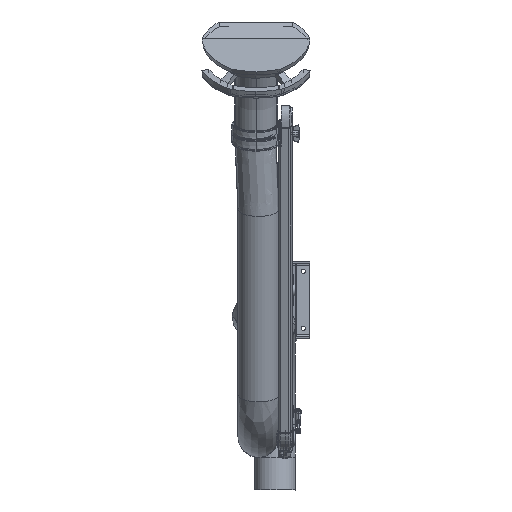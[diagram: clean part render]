
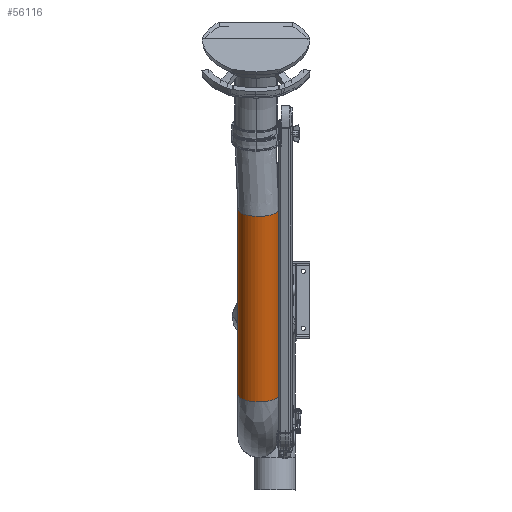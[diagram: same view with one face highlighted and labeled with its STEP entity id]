
A CAD part, front view. The second image highlights one B-rep face of the part: STEP entity #56116.
In plain terms, the highlighted free-form (B-spline) face has degree [3, 3] with [7, 6] control points.
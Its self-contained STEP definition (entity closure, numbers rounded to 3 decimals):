
#54192=CARTESIAN_POINT('',(-112.5,0.,-275.));
#54193=CARTESIAN_POINT('',(-112.5,0.,-341.667));
#54194=CARTESIAN_POINT('',(-112.5,0.,-475.));
#54195=CARTESIAN_POINT('',(-112.5,0.,-675.));
#54196=CARTESIAN_POINT('',(-112.5,0.,-808.333));
#54197=CARTESIAN_POINT('',(-112.5,0.,-875.));
#54202=CARTESIAN_POINT('',(-50.,0.,-275.));
#54203=DIRECTION('',(0.,0.,-1.));
#54204=DIRECTION('',(1.,0.,0.));
#54205=AXIS2_PLACEMENT_3D('',#54202,#54203,#54204);
#54210=CARTESIAN_POINT('',(12.5,0.,-275.));
#54211=CARTESIAN_POINT('',(12.5,0.,-341.667));
#54212=CARTESIAN_POINT('',(12.5,0.,-475.));
#54213=CARTESIAN_POINT('',(12.5,0.,-675.));
#54214=CARTESIAN_POINT('',(12.5,0.,-808.333));
#54215=CARTESIAN_POINT('',(12.5,0.,-875.));
#54220=CARTESIAN_POINT('',(-50.,0.,-875.));
#54221=DIRECTION('',(0.,0.,-1.));
#54222=DIRECTION('',(1.,0.,0.));
#54223=AXIS2_PLACEMENT_3D('',#54220,#54221,#54222);
#55753=CARTESIAN_POINT('',(12.5,0.,-275.));
#55754=CARTESIAN_POINT('',(-112.5,0.,-275.));
#55755=VERTEX_POINT('',#55753);
#55756=VERTEX_POINT('',#55754);
#55761=CARTESIAN_POINT('',(12.5,0.,-875.));
#55762=CARTESIAN_POINT('',(-112.5,0.,-875.));
#55763=VERTEX_POINT('',#55761);
#55764=VERTEX_POINT('',#55762);
#56066=CARTESIAN_POINT('',(12.377,3.924,-263.));
#56067=CARTESIAN_POINT('',(12.377,3.924,-267.));
#56068=CARTESIAN_POINT('',(12.377,3.924,-471.));
#56069=CARTESIAN_POINT('',(12.377,3.924,-679.));
#56070=CARTESIAN_POINT('',(12.377,3.924,-883.));
#56071=CARTESIAN_POINT('',(12.377,3.924,-887.));
#56072=CARTESIAN_POINT('',(14.792,-34.462,-263.));
#56073=CARTESIAN_POINT('',(14.792,-34.462,-267.));
#56074=CARTESIAN_POINT('',(14.792,-34.462,-471.));
#56075=CARTESIAN_POINT('',(14.792,-34.462,-679.));
#56076=CARTESIAN_POINT('',(14.792,-34.462,-883.));
#56077=CARTESIAN_POINT('',(14.792,-34.462,-887.));
#56078=CARTESIAN_POINT('',(-11.538,-62.5,-263.));
#56079=CARTESIAN_POINT('',(-11.538,-62.5,-267.));
#56080=CARTESIAN_POINT('',(-11.538,-62.5,-471.));
#56081=CARTESIAN_POINT('',(-11.538,-62.5,-679.));
#56082=CARTESIAN_POINT('',(-11.538,-62.5,-883.));
#56083=CARTESIAN_POINT('',(-11.538,-62.5,-887.));
#56084=CARTESIAN_POINT('',(-50.,-62.5,-263.));
#56085=CARTESIAN_POINT('',(-50.,-62.5,-267.));
#56086=CARTESIAN_POINT('',(-50.,-62.5,-471.));
#56087=CARTESIAN_POINT('',(-50.,-62.5,-679.));
#56088=CARTESIAN_POINT('',(-50.,-62.5,-883.));
#56089=CARTESIAN_POINT('',(-50.,-62.5,-887.));
#56090=CARTESIAN_POINT('',(-88.462,-62.5,-263.));
#56091=CARTESIAN_POINT('',(-88.462,-62.5,-267.));
#56092=CARTESIAN_POINT('',(-88.462,-62.5,-471.));
#56093=CARTESIAN_POINT('',(-88.462,-62.5,-679.));
#56094=CARTESIAN_POINT('',(-88.462,-62.5,-883.));
#56095=CARTESIAN_POINT('',(-88.462,-62.5,-887.));
#56096=CARTESIAN_POINT('',(-114.792,-34.462,-263.));
#56097=CARTESIAN_POINT('',(-114.792,-34.462,-267.));
#56098=CARTESIAN_POINT('',(-114.792,-34.462,-471.));
#56099=CARTESIAN_POINT('',(-114.792,-34.462,-679.));
#56100=CARTESIAN_POINT('',(-114.792,-34.462,-883.));
#56101=CARTESIAN_POINT('',(-114.792,-34.462,-887.));
#56102=CARTESIAN_POINT('',(-112.377,3.924,-263.));
#56103=CARTESIAN_POINT('',(-112.377,3.924,-267.));
#56104=CARTESIAN_POINT('',(-112.377,3.924,-471.));
#56105=CARTESIAN_POINT('',(-112.377,3.924,-679.));
#56106=CARTESIAN_POINT('',(-112.377,3.924,-883.));
#56107=CARTESIAN_POINT('',(-112.377,3.924,-887.));
#56108=(BOUNDED_SURFACE()B_SPLINE_SURFACE(3,3,((#56066,#56067,#56068,#56069,
#56070,#56071),(#56072,#56073,#56074,#56075,#56076,#56077),(#56078,#56079,
#56080,#56081,#56082,#56083),(#56084,#56085,#56086,#56087,#56088,#56089),
(#56090,#56091,#56092,#56093,#56094,#56095),(#56096,#56097,#56098,#56099,#56100,
#56101),(#56102,#56103,#56104,#56105,#56106,#56107)),.UNSPECIFIED.,.F.,.F.,.F.)B_SPLINE_SURFACE_WITH_KNOTS((4,3,4),(4,1,1,4),(0.,1.,2.),(-0.02,0.,1.,
1.02),.UNSPECIFIED.)GEOMETRIC_REPRESENTATION_ITEM()RATIONAL_B_SPLINE_SURFACE((
(1.187,1.187,1.187,1.187,
1.187,1.187),(0.938,0.938,
0.938,0.938,0.938,0.938),(
0.938,0.938,0.938,0.938,
0.938,0.938),(1.187,1.187,
1.187,1.187,1.187,1.187),(
0.938,0.938,0.938,0.938,
0.938,0.938),(0.938,0.938,
0.938,0.938,0.938,0.938),(
1.187,1.187,1.187,1.187,
1.187,1.187)))REPRESENTATION_ITEM('')SURFACE());
#56109=ORIENTED_EDGE('',*,*,#55913,.F.);
#56110=ORIENTED_EDGE('',*,*,#56054,.T.);
#56112=ORIENTED_EDGE('',*,*,#56111,.T.);
#56113=ORIENTED_EDGE('',*,*,#56050,.F.);
#56114=EDGE_LOOP('',(#56109,#56110,#56112,#56113));
#56115=FACE_OUTER_BOUND('',#56114,.F.);
#54198=B_SPLINE_CURVE_WITH_KNOTS('',3,(#54192,#54193,#54194,#54195,#54196,
#54197),.UNSPECIFIED.,.F.,.F.,(4,1,1,4),(0.,0.333,
0.667,1.),.UNSPECIFIED.);
#54206=CIRCLE('',#54205,62.5);
#54216=B_SPLINE_CURVE_WITH_KNOTS('',3,(#54210,#54211,#54212,#54213,#54214,
#54215),.UNSPECIFIED.,.F.,.F.,(4,1,1,4),(0.,0.333,
0.667,1.),.UNSPECIFIED.);
#54224=CIRCLE('',#54223,62.5);
#55913=EDGE_CURVE('',#55755,#55756,#54206,.T.);
#56050=EDGE_CURVE('',#55756,#55764,#54198,.T.);
#56054=EDGE_CURVE('',#55755,#55763,#54216,.T.);
#56111=EDGE_CURVE('',#55763,#55764,#54224,.T.);
#56116=ADVANCED_FACE('',(#56115),#56108,.T.);
